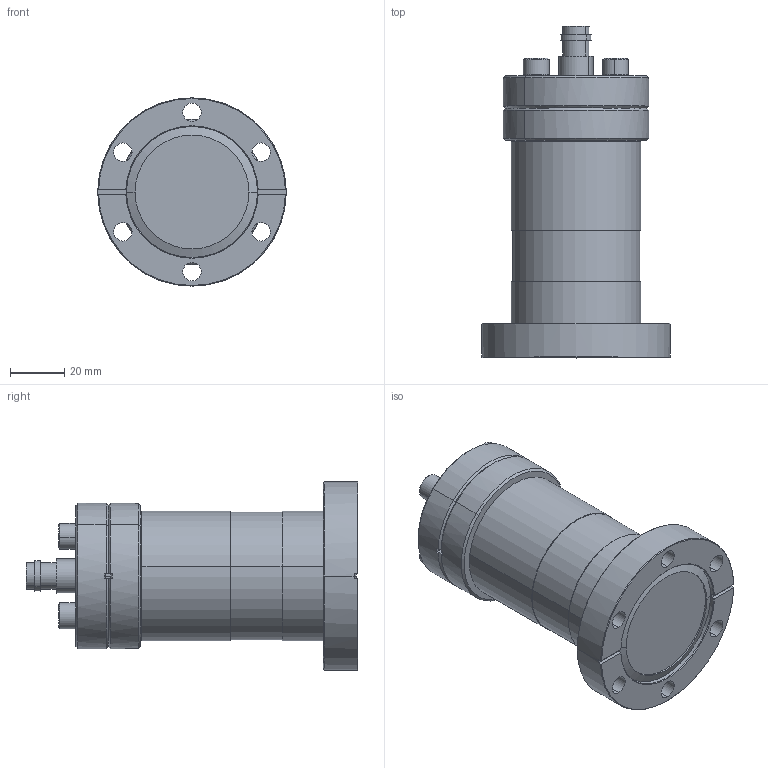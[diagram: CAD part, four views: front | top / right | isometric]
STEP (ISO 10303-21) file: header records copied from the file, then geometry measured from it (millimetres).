
FILE_DESCRIPTION (( 'STEP AP214' ), '1' );
FILE_NAME ('2-2146-052.STEP', '2023-04-21T12:49:58', ( '' ), ( '' ), 'SwSTEP 2.0', 'SolidWorks 2022', '' );
FILE_SCHEMA (( 'AUTOMOTIVE_DESIGN' ));
Length unit declared in the file: inch
Products named in the file (1): 2-2146-052
Bounding box: 69.34 x 122.17 x 69.34 mm (x, y, z)
Volume: 214331.1 mm3; surface area: 33199.7 mm2
Topology: 3 solids, 4 shells, 145 faces, 340 edges, 217 vertices
Faces by surface type: cylinder 57, plane 48, cone 40
Full cylindrical faces by diameter (mm): 27.305 x1
Entity records: 4370 total; most frequent: DIRECTION 790, CARTESIAN_POINT 744, ORIENTED_EDGE 678, EDGE_CURVE 339, AXIS2_PLACEMENT_3D 319, VERTEX_POINT 217, EDGE_LOOP 176, CIRCLE 173
